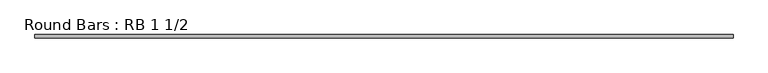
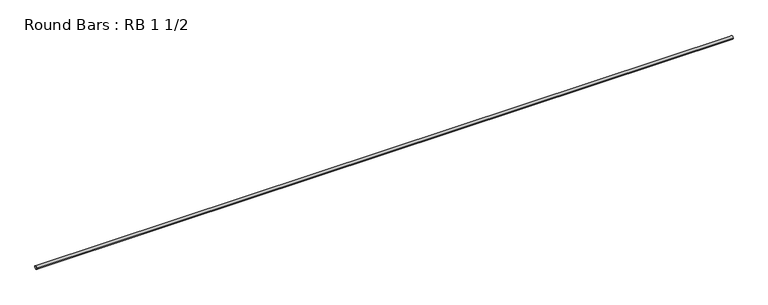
"""IFC4 building model written with IfcOpenShell, lengths in millimetres: member geometry, Round Bars : RB 1 1/2."""

from ifc_helpers import new_model, si_unit, point, frame, origin, origin_2d, place, context, project, spatial, circle_curve, trimmed, segment, composite_curve, outline, extrude, source, transform, mapped, element, save


def round_bars_rb_1_1_2_90346dbf(model_context):
    return source(origin(), model_context, "Body", "SweptSolid", [
        extrude(outline(composite_curve([segment(trimmed(circle_curve(origin_2d(), 19.05), [point((19.05, 0.0))], [point((-19.05, 0.0))], False, "CARTESIAN"), True, "CONTINUOUS"), segment(trimmed(circle_curve(origin_2d(), 19.05), [point((-19.05, 0.0))], [point((19.05, 0.0))], False, "CARTESIAN"), True, "CONTINUOUS")], self_intersect=False)), frame((-4173.4475169, 0.0, 0.0), z_axis=(1.0, 0.0, 0.0), x_axis=(0.0, 1.0, 0.0)), (0.0, 0.0, 1.0), 8289.301889),
    ])


if __name__ == "__main__":
    model = new_model("IFC4")
    model_context = context("Model", 3, world=origin())
    ifc_project = project(units=[si_unit("LENGTHUNIT", "METRE", prefix="MILLI")], contexts=[model_context])
    site = spatial("IfcSite", under=ifc_project)
    building = spatial("IfcBuilding", under=site)
    placement = place(None, origin())
    round_bars_rb_1_1_2_shape = round_bars_rb_1_1_2_90346dbf(model_context)
    element("IfcMember", 1, ObjectType="Round Bars : RB 1 1/2", at=placement, inside=building, context=model_context, shape_type="MappedRepresentation", body=[
        mapped(round_bars_rb_1_1_2_shape, transform((0.0, 0.0, 0.0), x_axis=(1.0, 0.0, 0.0), y_axis=(0.0, 1.0, 0.0), z_axis=(0.0, 0.0, 1.0))),
    ])
    save(model, "model.ifc")
